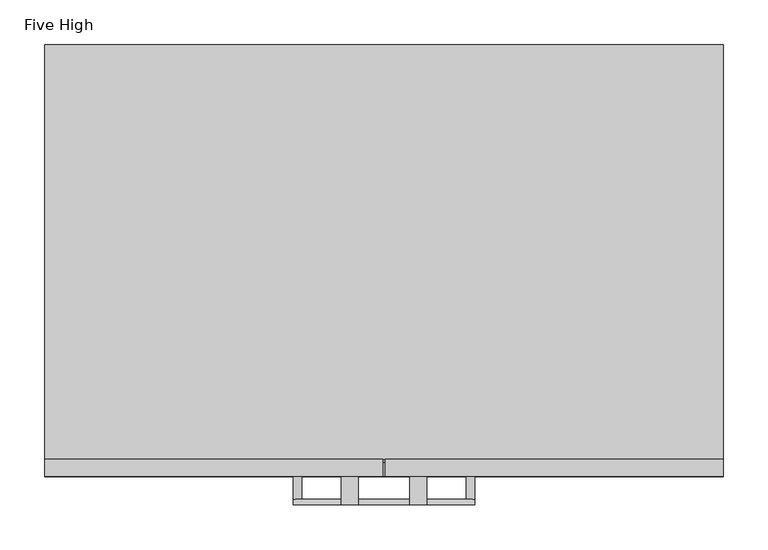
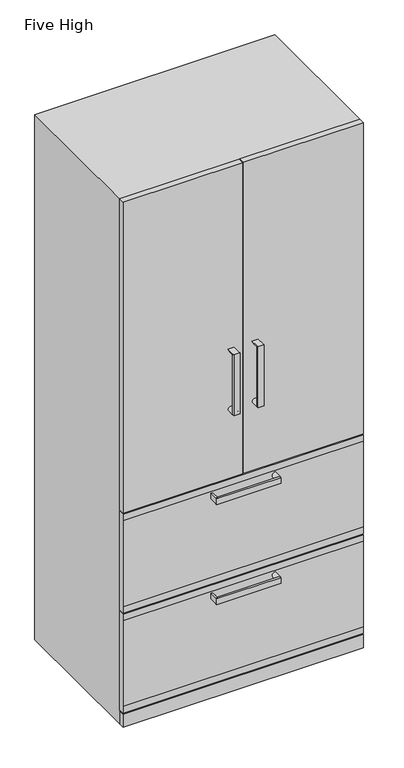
"""IFC4 building model written with IfcOpenShell, lengths in millimetres: furniture geometry, Haworth_Masters_Combo_Lateral FIX : Five High."""

import ifcopenshell
import ifcopenshell.guid

model = None  # the IFC model being written
_history = None  # IfcOwnerHistory: only IFC2X3 demands one
_inside = {}  # id of a spatial element -> (the spatial element, [elements in it])
_under = {}  # id of a project, library or spatial element -> (it, [spatial elements below it])
_declared = {}  # id of a project -> (the project, [libraries it declares])
_typed = {}  # id of a type object -> (the type object, [elements of that type])
_made_of = {}  # id of a material, layer set ... -> (it, [elements and type objects made of it])


def new_model(schema):
    """Start an empty IFC model of exactly this schema.

    Asked for "IFC4X3", IfcOpenShell would pick the latest addendum, in which some entities
    have other attributes; the version numbers below select the first issue.
    IFC2X3 requires an IfcOwnerHistory on every rooted entity: one is made here for all.
    """
    global model, _history
    if schema == "IFC4X3":
        model = ifcopenshell.file(schema_version=(4, 3, 0, 0))
    else:
        model = ifcopenshell.file(schema=schema)
    _inside.clear()
    _under.clear()
    _declared.clear()
    _typed.clear()
    _made_of.clear()
    _history = None
    if model.schema == "IFC2X3":
        org = make("IfcOrganization", Name="unknown")
        user = make(
            "IfcPersonAndOrganization",
            ThePerson=make("IfcPerson", FamilyName="unknown"),
            TheOrganization=org,
        )
        app = make(
            "IfcApplication",
            ApplicationDeveloper=org,
            Version="unknown",
            ApplicationFullName="unknown",
            ApplicationIdentifier="unknown",
        )
        _history = make(
            "IfcOwnerHistory",
            OwningUser=user,
            OwningApplication=app,
            ChangeAction="ADDED",
            CreationDate=0,
        )
    return model


def make(cls, **values):
    """One entity of the class cls with the attributes given. An attribute that is None is left unset."""
    return model.create_entity(
        cls, **{name: value for name, value in values.items() if value is not None}
    )


def rooted(cls, **values):
    """An entity with a GlobalId (a new one), such as an element, a storey or a relation."""
    return make(cls, GlobalId=ifcopenshell.guid.new(), OwnerHistory=_history, **values)


def si_unit(unit_type, name, prefix=None):
    """IfcSIUnit, for example si_unit("LENGTHUNIT", "METRE", prefix="MILLI")."""
    return make("IfcSIUnit", UnitType=unit_type, Prefix=prefix, Name=name)


def assignment(units):
    """IfcUnitAssignment: the units of a project."""
    return None if units is None else make("IfcUnitAssignment", Units=units)


def point(xyz):
    """IfcCartesianPoint."""
    return None if xyz is None else make("IfcCartesianPoint", Coordinates=xyz)


def direction(xyz):
    """IfcDirection."""
    return None if xyz is None else make("IfcDirection", DirectionRatios=xyz)


def frame(location, z_axis=None, x_axis=None):
    """IfcAxis2Placement3D, a coordinate frame: its origin and axes. An axis left out is left unset."""
    return make(
        "IfcAxis2Placement3D",
        Location=point(location),
        Axis=direction(z_axis),
        RefDirection=direction(x_axis),
    )


def origin():
    """The frame at (0, 0, 0) with its axes left unset."""
    return frame((0.0, 0.0, 0.0))


def origin_with_axes():
    """The frame at (0, 0, 0) with the z axis (0, 0, 1) and the x axis (1, 0, 0) written out."""
    return frame((0.0, 0.0, 0.0), z_axis=(0.0, 0.0, 1.0), x_axis=(1.0, 0.0, 0.0))


def place(relative_to, where):
    """IfcLocalPlacement: puts the frame where relative to a parent placement (None: the world)."""
    return make(
        "IfcLocalPlacement", PlacementRelTo=relative_to, RelativePlacement=where
    )


def context(
    kind, dimensions, precision=None, world=None, true_north=None, identifier=None
):
    """IfcGeometricRepresentationContext, for example the 3D "Model" context."""
    return make(
        "IfcGeometricRepresentationContext",
        ContextIdentifier=identifier,
        ContextType=kind,
        CoordinateSpaceDimension=dimensions,
        Precision=precision,
        WorldCoordinateSystem=world,
        TrueNorth=true_north,
    )


def project(units=None, contexts=None):
    """IfcProject with its units and contexts."""
    return rooted(
        "IfcProject",
        Name="project",
        RepresentationContexts=contexts,
        UnitsInContext=assignment(units),
    )


def spatial(cls, under=None, at=None, **own):
    """A site, building, storey or space (cls), placed at a placement, below another one or the project."""
    s = rooted(cls, ObjectPlacement=at, **own)
    if under is not None:
        _under.setdefault(under.id(), (under, []))[1].append(s)
    return s


def polyline(points):
    """IfcPolyline through the points."""
    return make("IfcPolyline", Points=[point(p) for p in points])


def circle_curve(where, radius):
    """IfcCircle in the frame where."""
    return make("IfcCircle", Position=where, Radius=radius)


def outline(outer, holes=None, kind="AREA"):
    """IfcArbitraryClosedProfileDef: a profile drawn as a closed curve; with holes, ...WithVoids."""
    if holes is None:
        return make("IfcArbitraryClosedProfileDef", ProfileType=kind, OuterCurve=outer)
    return make(
        "IfcArbitraryProfileDefWithVoids",
        ProfileType=kind,
        OuterCurve=outer,
        InnerCurves=holes,
    )


def extrude(swept, where, along, depth):
    """IfcExtrudedAreaSolid: the profile swept, set in the frame where, extruded along a direction by depth."""
    return make(
        "IfcExtrudedAreaSolid",
        SweptArea=swept,
        Position=where,
        ExtrudedDirection=direction(along),
        Depth=depth,
    )


def faces_of(points, faces, orient=None, outer=None):
    """IfcFace entities. A face is a list of loops; a loop is a list of indices into points, from 0.

    orient and outer hold one flag for each loop. By default every Orientation is true, the
    first loop of a face is its IfcFaceOuterBound and the others are IfcFaceBound.
    """
    made = []
    for i, loops in enumerate(faces):
        bounds = []
        for j, loop in enumerate(loops):
            is_outer = j == 0 if outer is None else outer[i][j]
            bounds.append(
                make(
                    "IfcFaceOuterBound" if is_outer else "IfcFaceBound",
                    Bound=make("IfcPolyLoop", Polygon=[points[k] for k in loop]),
                    Orientation=True if orient is None else orient[i][j],
                )
            )
        made.append(make("IfcFace", Bounds=bounds))
    return made


def faceted_brep(points, faces, orient=None, outer=None, voids=None):
    """IfcFacetedBrep: a solid bounded by flat faces; with voids (closed shells), ...WithVoids."""
    shared = [point(p) for p in points]
    hull = make("IfcClosedShell", CfsFaces=faces_of(shared, faces, orient, outer))
    if voids is None:
        return make("IfcFacetedBrep", Outer=hull)
    return make(
        "IfcFacetedBrepWithVoids",
        Outer=hull,
        Voids=[
            make(cls, CfsFaces=faces_of(shared, fs, o, b)) for cls, fs, o, b in voids
        ],
    )


def shape(context_of_items, identifier, shape_type, items):
    """IfcShapeRepresentation: the items that make up one representation, for example the "Body"."""
    return make(
        "IfcShapeRepresentation",
        ContextOfItems=context_of_items,
        RepresentationIdentifier=identifier,
        RepresentationType=shape_type,
        Items=items,
    )


def source(mapping_origin, context_of_items, identifier, shape_type, items):
    """IfcRepresentationMap: a shape defined once, which mapped items show again and again."""
    return make(
        "IfcRepresentationMap",
        MappingOrigin=mapping_origin,
        MappedRepresentation=shape(context_of_items, identifier, shape_type, items),
    )


def transform(
    local_origin,
    x_axis=None,
    y_axis=None,
    z_axis=None,
    scale=None,
    scale2=None,
    scale3=None,
    uniform=True,
):
    """IfcCartesianTransformationOperator3D, or its non-uniform kind. x_axis, y_axis, z_axis: its Axis1, 2, 3."""
    if uniform:
        return make(
            "IfcCartesianTransformationOperator3D",
            Axis1=direction(x_axis),
            Axis2=direction(y_axis),
            LocalOrigin=point(local_origin),
            Scale=scale,
            Axis3=direction(z_axis),
        )
    return make(
        "IfcCartesianTransformationOperator3DnonUniform",
        Axis1=direction(x_axis),
        Axis2=direction(y_axis),
        LocalOrigin=point(local_origin),
        Scale=scale,
        Axis3=direction(z_axis),
        Scale2=scale2,
        Scale3=scale3,
    )


def mapped(mapping_source, mapping_target):
    """IfcMappedItem: shows the shape of a source again, moved by a transform."""
    return make(
        "IfcMappedItem", MappingSource=mapping_source, MappingTarget=mapping_target
    )


def made_of(thing, what):
    """Note that an element or type object is made of a material, layer set ...; save() writes the relation."""
    if what is not None:
        _made_of.setdefault(what.id(), (what, []))[1].append(thing)
    return thing


def element(
    cls,
    number,
    at=None,
    inside=None,
    cuts=None,
    type_object=None,
    material=None,
    context=None,
    identifier="Body",
    shape_type=None,
    held_by="IfcProductDefinitionShape",
    body=None,
    shapes=None,
    **own,
):
    """One element of the class cls, such as IfcWall. Its Tag is "e" and its number.

    at: its placement. inside: the storey or other place that contains it. cuts: it is an
    opening in that element (IfcRelVoidsElement). A single representation is given by context,
    identifier, shape_type and body (its items); several are given by shapes. held_by: the class
    of the entity that holds the representations. save() writes the other relations.
    """
    e = rooted(cls, Tag="e%d" % number, ObjectPlacement=at, **own)
    if body is not None:
        shapes = [shape(context, identifier, shape_type, body)]
    if shapes is not None:
        e.Representation = make(held_by, Representations=shapes)
    if inside is not None:
        _inside.setdefault(inside.id(), (inside, []))[1].append(e)
    if cuts is not None:
        rooted(
            "IfcRelVoidsElement", RelatingBuildingElement=cuts, RelatedOpeningElement=e
        )
    if type_object is not None:
        _typed.setdefault(type_object.id(), (type_object, []))[1].append(e)
    return made_of(e, material)


def aggregate(whole, parts):
    """IfcRelAggregates: a whole, such as a stair, and the parts it consists of."""
    return rooted("IfcRelAggregates", RelatingObject=whole, RelatedObjects=parts)


def save(model, path):
    """Write the relations noted so far, then the file.

    IfcRelAggregates (storeys below a building ...), IfcRelContainedInSpatialStructure (elements
    in a storey), IfcRelDefinesByType, IfcRelAssociatesMaterial and IfcRelDeclares: one each for
    every whole, place, type object, material and project.
    """
    for whole, parts in _under.values():
        aggregate(whole, parts)
    for where, things in _inside.values():
        rooted(
            "IfcRelContainedInSpatialStructure",
            RelatedElements=things,
            RelatingStructure=where,
        )
    for kind, things in _typed.values():
        rooted("IfcRelDefinesByType", RelatedObjects=things, RelatingType=kind)
    for what, things in _made_of.values():
        rooted("IfcRelAssociatesMaterial", RelatedObjects=things, RelatingMaterial=what)
    for by, libraries in _declared.values():
        rooted("IfcRelDeclares", RelatingContext=by, RelatedDefinitions=libraries)
    model.write(path)


def plane_surface(at):
    """IfcPlane: the flat surface through the origin of the frame at, square to its z axis."""
    return make("IfcPlane", Position=at)


def cylinder_surface(at, radius):
    """IfcCylindricalSurface: all points at the distance radius from the z axis of the frame at."""
    return make("IfcCylindricalSurface", Position=at, Radius=radius)


def advanced_brep(points, edges, surfaces, faces):
    """IfcAdvancedBrep: a solid bounded by faces that lie on surfaces and meet in shared edges.

    An edge is (start, end): straight between two places in points (the first is 0);
    or (start, end, curve); or (start, end, curve, False) where it runs against its curve.
    A face is (place in surfaces, loops), or (place, loops, False) where it looks against
    its surface's normal. A loop lists edges by number (the first is 1), with a minus sign
    where the edge is run from its end to its start. The first loop is the outer one.
    """
    corners = [point(p) for p in points]
    vertices = [make("IfcVertexPoint", VertexGeometry=c) for c in corners]
    made = []
    for start, end, *more in edges:
        made.append(
            make(
                "IfcEdgeCurve",
                EdgeStart=vertices[start],
                EdgeEnd=vertices[end],
                EdgeGeometry=more[0] if more else make("IfcPolyline", Points=[corners[start], corners[end]]),
                SameSense=more[1] if len(more) > 1 else True,
            )
        )
    hull = []
    for where, loops, *sense in faces:
        bounds = []
        for j, loop in enumerate(loops):
            ring = [make("IfcOrientedEdge", EdgeElement=made[abs(k) - 1], Orientation=k > 0) for k in loop]
            bounds.append(
                make(
                    "IfcFaceOuterBound" if j == 0 else "IfcFaceBound",
                    Bound=make("IfcEdgeLoop", EdgeList=ring),
                    Orientation=True,
                )
            )
        hull.append(make("IfcAdvancedFace", Bounds=bounds, FaceSurface=surfaces[where], SameSense=sense[0] if sense else True))
    return make("IfcAdvancedBrep", Outer=make("IfcClosedShell", CfsFaces=hull))


def five_high_7c8187b1(model_context):
    return source(origin(), model_context, "Body", "SolidModel", [
        advanced_brep(
        [(31.75, -482.6, 1146.175), (50.8, -482.6, 1146.175), (50.8, -508.0000121, 1146.175), (31.75, -508.0000121, 1146.175), (31.75, -482.6, 942.975), (50.8, -482.6, 942.975), (31.75, -508.0000121, 942.975), (50.8, -508.0000121, 942.975), (50.8, -514.3499879, 942.975), (50.8, -514.3499879, 1146.175), (31.75, -514.3499879, 1146.175), (31.75, -514.3499879, 942.975)],
        [
            (0, 1),
            (1, 0, circle_curve(frame((41.275, -482.6, 1146.175), z_axis=(0.0, 1.0, 0.0), x_axis=(0.0, 0.0, -1.0)), 9.525)),
            (1, 2),
            (2, 3, circle_curve(frame((41.275, -508.0000121, 1146.175), z_axis=(0.0, 1.0, 0.0), x_axis=(0.0, 0.0, -1.0)), 9.525)),
            (3, 0),
            (4, 5, circle_curve(frame((41.275, -482.6, 942.975), z_axis=(0.0, 1.0, 0.0), x_axis=(0.0, 0.0, 1.0)), 9.525)),
            (5, 4),
            (4, 6),
            (6, 7, circle_curve(frame((41.275, -508.0000121, 942.975), z_axis=(0.0, 1.0, 0.0), x_axis=(0.0, 0.0, 1.0)), 9.525)),
            (7, 5),
            (8, 9),
            (9, 10),
            (10, 11),
            (11, 8),
            (6, 3),
            (2, 7),
            (8, 7),
            (2, 9),
            (3, 10),
            (6, 11),
        ],
        [
            plane_surface(frame((41.275, -482.6, 1136.65), z_axis=(0.0, 1.0, 0.0), x_axis=(-1.0, 0.0, 0.0))),
            cylinder_surface(frame((41.275, -482.6, 1146.175), z_axis=(0.0, -1.0, 0.0), x_axis=(0.0, 0.0, -1.0)), 9.525),
            plane_surface(frame((50.8, -482.6, 942.975), z_axis=(0.0, 1.0, 0.0), x_axis=(-1.0, 0.0, 0.0))),
            cylinder_surface(frame((41.275, -482.6, 942.975), z_axis=(0.0, -1.0, 0.0), x_axis=(0.0, 0.0, 1.0)), 9.525),
            plane_surface(frame((50.8, -514.3499879, 1146.175), z_axis=(0.0, -1.0, 0.0), x_axis=(0.0, 0.0, 1.0))),
            plane_surface(frame((50.8, -508.0000121, 1146.175), z_axis=(0.0, 1.0, 0.0), x_axis=(0.0, 0.0, -1.0))),
            plane_surface(frame((50.8, -514.3499879, 942.975), z_axis=(1.0, 0.0, 0.0), x_axis=(0.0, 1.0, 0.0))),
            plane_surface(frame((50.8, -514.3499879, 1146.175), z_axis=(0.0, 0.0, 1.0), x_axis=(0.0, 1.0, 0.0))),
            plane_surface(frame((31.75, -514.3499879, 1146.175), z_axis=(-1.0, 0.0, 0.0), x_axis=(0.0, 1.0, 0.0))),
            plane_surface(frame((31.75, -514.3499879, 942.975), z_axis=(0.0, 0.0, -1.0), x_axis=(0.0, 1.0, 0.0))),
        ],
        [
            (0, [[1, 2]]),
            (1, [[-2, 3, 4, 5]]),
            (2, [[6, 7]]),
            (3, [[-6, 8, 9, 10]]),
            (4, [[11, 12, 13, 14]]),
            (5, [[15, -4, 16, -9]]),
            (6, [[-11, 17, -16, 18]]),
            (7, [[-12, -18, -3, -1, -5, 19]]),
            (8, [[-13, -19, -15, 20]]),
            (9, [[-14, -20, -8, -7, -10, -17]]),
        ],
    ),
        extrude(outline(polyline([(-300.0375, -482.6), (-300.0375, -463.55), (77.7875, -463.55), (77.7875, -482.6), (-300.0375, -482.6)])), frame((0.0, 0.0, 714.375), z_axis=(0.0, 0.0, 1.0), x_axis=(1.0, 0.0, 0.0)), (0.0, 0.0, 1.0), 1038.225),
        advanced_brep(
        [(-22.225, -482.6, 665.1625), (-22.225, -482.6, 684.2125), (-22.225, -508.0000121, 684.2125), (-22.225, -508.0000121, 665.1625), (-22.225, -514.3499879, 665.1625), (-22.225, -514.3499879, 684.2125), (180.975, -482.6, 665.1960294), (180.975, -482.6, 684.1789706), (180.975, -508.0000121, 665.1960294), (180.975, -508.0000121, 684.1789706), (180.975, -514.3499879, 684.2125), (180.975, -514.3499879, 665.1625)],
        [
            (0, 1),
            (1, 0, circle_curve(frame((-22.225, -482.6, 674.6875), z_axis=(0.0, 1.0, 0.0), x_axis=(1.0, 0.0, 0.0)), 9.525)),
            (1, 2),
            (2, 3, circle_curve(frame((-22.225, -508.0000121, 674.6875), z_axis=(0.0, 1.0, 0.0), x_axis=(1.0, 0.0, 0.0)), 9.525)),
            (3, 0),
            (3, 4),
            (4, 5),
            (5, 2),
            (6, 7, circle_curve(frame((180.975, -482.6, 674.6875), z_axis=(0.0, 1.0, 0.0), x_axis=(-1.0, 0.0, 0.0)), 9.4914706)),
            (7, 6),
            (6, 8),
            (8, 9, circle_curve(frame((180.975, -508.0000121, 674.6875), z_axis=(0.0, 1.0, 0.0), x_axis=(-1.0, 0.0, 0.0)), 9.4914706)),
            (9, 7),
            (9, 10),
            (10, 11),
            (11, 8),
            (10, 5),
            (4, 11),
            (8, 3),
            (2, 9),
        ],
        [
            plane_surface(frame((-12.7, -482.6, 674.6875), z_axis=(0.0, 1.0, 0.0), x_axis=(0.0, 0.0, -1.0))),
            cylinder_surface(frame((-22.225, -482.6, 674.6875), z_axis=(0.0, -1.0, 0.0), x_axis=(1.0, 0.0, 0.0)), 9.525),
            plane_surface(frame((-22.225, -508.0000121, 684.2125), z_axis=(-1.0, 0.0, 0.0), x_axis=(0.0, 1.0, 0.0))),
            plane_surface(frame((180.975, -482.6, 684.1789706), z_axis=(0.0, 1.0, 0.0), x_axis=(0.0, 0.0, -1.0))),
            cylinder_surface(frame((180.975, -482.6, 674.6875), z_axis=(0.0, -1.0, 0.0), x_axis=(-1.0, 0.0, 0.0)), 9.4914706),
            plane_surface(frame((180.975, -508.0000121, 665.1960294), z_axis=(1.0, 0.0, 0.0), x_axis=(0.0, 1.0, 0.0))),
            plane_surface(frame((-22.225, -514.3499879, 684.2125), z_axis=(0.0, -1.0, 0.0), x_axis=(-1.0, 0.0, 0.0))),
            plane_surface(frame((-22.225, -508.0000121, 684.2125), z_axis=(0.0, 1.0, 0.0), x_axis=(1.0, 0.0, 0.0))),
            plane_surface(frame((-22.225, -514.3499879, 665.1625), z_axis=(0.0, 0.0, -1.0), x_axis=(0.0, 1.0, 0.0))),
            plane_surface(frame((180.975, -514.3499879, 684.2125), z_axis=(0.0, 0.0, 1.0), x_axis=(0.0, 1.0, 0.0))),
        ],
        [
            (0, [[1, 2]]),
            (1, [[-2, 3, 4, 5]]),
            (2, [[-1, -5, 6, 7, 8, -3]]),
            (3, [[9, 10]]),
            (4, [[-9, 11, 12, 13]]),
            (5, [[-10, -13, 14, 15, 16, -11]]),
            (6, [[17, -7, 18, -15]]),
            (7, [[19, -4, 20, -12]]),
            (8, [[-18, -6, -19, -16]]),
            (9, [[-17, -14, -20, -8]]),
        ],
    ),
        extrude(outline(polyline([(-466.725, 711.2), (-463.55, 711.2), (-463.55, 381.0), (-466.725, 381.0), (-482.6, 381.0), (-482.6, 403.225), (-482.6, 688.975), (-482.6, 711.2), (-466.725, 711.2)])), frame((-300.0375, 0.0, 0.0), z_axis=(1.0, 0.0, 0.0), x_axis=(0.0, 1.0, 0.0)), (0.0, 0.0, 1.0), 758.825),
        advanced_brep(
        [(-22.225, -482.6, 331.7875), (-22.225, -482.6, 350.8375), (-22.225, -508.0000121, 350.8375), (-22.225, -508.0000121, 331.7875), (-22.225, -514.3499879, 331.7875), (-22.225, -514.3499879, 350.8375), (180.975, -482.6, 331.8210294), (180.975, -482.6, 350.8039706), (180.975, -508.0000121, 331.8210294), (180.975, -508.0000121, 350.8039706), (180.975, -514.3499879, 350.8375), (180.975, -514.3499879, 331.7875)],
        [
            (0, 1),
            (1, 0, circle_curve(frame((-22.225, -482.6, 341.3125), z_axis=(0.0, 1.0, 0.0), x_axis=(1.0, 0.0, 0.0)), 9.525)),
            (1, 2),
            (2, 3, circle_curve(frame((-22.225, -508.0000121, 341.3125), z_axis=(0.0, 1.0, 0.0), x_axis=(1.0, 0.0, 0.0)), 9.525)),
            (3, 0),
            (3, 4),
            (4, 5),
            (5, 2),
            (6, 7, circle_curve(frame((180.975, -482.6, 341.3125), z_axis=(0.0, 1.0, 0.0), x_axis=(-1.0, 0.0, 0.0)), 9.4914706)),
            (7, 6),
            (6, 8),
            (8, 9, circle_curve(frame((180.975, -508.0000121, 341.3125), z_axis=(0.0, 1.0, 0.0), x_axis=(-1.0, 0.0, 0.0)), 9.4914706)),
            (9, 7),
            (9, 10),
            (10, 11),
            (11, 8),
            (10, 5),
            (4, 11),
            (8, 3),
            (2, 9),
        ],
        [
            plane_surface(frame((-12.7, -482.6, 341.3125), z_axis=(0.0, 1.0, 0.0), x_axis=(0.0, 0.0, -1.0))),
            cylinder_surface(frame((-22.225, -482.6, 341.3125), z_axis=(0.0, -1.0, 0.0), x_axis=(1.0, 0.0, 0.0)), 9.525),
            plane_surface(frame((-22.225, -508.0000121, 350.8375), z_axis=(-1.0, 0.0, 0.0), x_axis=(0.0, 1.0, 0.0))),
            plane_surface(frame((180.975, -482.6, 350.8039706), z_axis=(0.0, 1.0, 0.0), x_axis=(0.0, 0.0, -1.0))),
            cylinder_surface(frame((180.975, -482.6, 341.3125), z_axis=(0.0, -1.0, 0.0), x_axis=(-1.0, 0.0, 0.0)), 9.4914706),
            plane_surface(frame((180.975, -508.0000121, 331.8210294), z_axis=(1.0, 0.0, 0.0), x_axis=(0.0, 1.0, 0.0))),
            plane_surface(frame((-22.225, -514.3499879, 350.8375), z_axis=(0.0, -1.0, 0.0), x_axis=(-1.0, 0.0, 0.0))),
            plane_surface(frame((-22.225, -508.0000121, 350.8375), z_axis=(0.0, 1.0, 0.0), x_axis=(1.0, 0.0, 0.0))),
            plane_surface(frame((-22.225, -514.3499879, 331.7875), z_axis=(0.0, 0.0, -1.0), x_axis=(0.0, 1.0, 0.0))),
            plane_surface(frame((180.975, -514.3499879, 350.8375), z_axis=(0.0, 0.0, 1.0), x_axis=(0.0, 1.0, 0.0))),
        ],
        [
            (0, [[1, 2]]),
            (1, [[-2, 3, 4, 5]]),
            (2, [[-1, -5, 6, 7, 8, -3]]),
            (3, [[9, 10]]),
            (4, [[-9, 11, 12, 13]]),
            (5, [[-10, -13, 14, 15, 16, -11]]),
            (6, [[17, -7, 18, -15]]),
            (7, [[19, -4, 20, -12]]),
            (8, [[-18, -6, -19, -16]]),
            (9, [[-17, -14, -20, -8]]),
        ],
    ),
        extrude(outline(polyline([(-466.725, 377.825), (-463.55, 377.825), (-463.55, 47.625), (-466.725, 47.625), (-482.6, 47.625), (-482.6, 69.85), (-482.6, 355.6), (-482.6, 377.825), (-466.725, 377.825)])), frame((-300.0375, 0.0, 0.0), z_axis=(1.0, 0.0, 0.0), x_axis=(0.0, 1.0, 0.0)), (0.0, 0.0, 1.0), 758.825),
        advanced_brep(
        [(127.0, -482.6, 1146.175), (107.95, -482.6, 1146.175), (127.0, -508.0000121, 1146.175), (107.95, -508.0000121, 1146.175), (127.0, -482.6, 942.975), (107.95, -482.6, 942.975), (107.95, -508.0000121, 942.975), (127.0, -508.0000121, 942.975), (107.95, -514.3499879, 942.975), (127.0, -514.3499879, 942.975), (127.0, -514.3499879, 1146.175), (107.95, -514.3499879, 1146.175)],
        [
            (0, 1, circle_curve(frame((117.475, -482.6, 1146.175), z_axis=(0.0, 1.0, 0.0), x_axis=(0.0, 0.0, -1.0)), 9.525)),
            (1, 0),
            (0, 2),
            (2, 3, circle_curve(frame((117.475, -508.0000121, 1146.175), z_axis=(0.0, 1.0, 0.0), x_axis=(0.0, 0.0, -1.0)), 9.525)),
            (3, 1),
            (4, 5),
            (5, 4, circle_curve(frame((117.475, -482.6, 942.975), z_axis=(0.0, 1.0, 0.0), x_axis=(0.0, 0.0, 1.0)), 9.525)),
            (5, 6),
            (6, 7, circle_curve(frame((117.475, -508.0000121, 942.975), z_axis=(0.0, 1.0, 0.0), x_axis=(0.0, 0.0, 1.0)), 9.525)),
            (7, 4),
            (8, 9),
            (9, 10),
            (10, 11),
            (11, 8),
            (6, 3),
            (2, 7),
            (11, 3),
            (6, 8),
            (10, 2),
            (9, 7),
        ],
        [
            plane_surface(frame((117.475, -482.6, 1136.65), z_axis=(0.0, 1.0, 0.0), x_axis=(1.0, 0.0, 0.0))),
            cylinder_surface(frame((117.475, -482.6, 1146.175), z_axis=(0.0, -1.0, 0.0), x_axis=(0.0, 0.0, -1.0)), 9.525),
            plane_surface(frame((107.95, -482.6, 942.975), z_axis=(0.0, 1.0, 0.0), x_axis=(1.0, 0.0, 0.0))),
            cylinder_surface(frame((117.475, -482.6, 942.975), z_axis=(0.0, -1.0, 0.0), x_axis=(0.0, 0.0, 1.0)), 9.525),
            plane_surface(frame((107.95, -514.3499879, 1146.175), z_axis=(0.0, -1.0, 0.0), x_axis=(0.0, 0.0, 1.0))),
            plane_surface(frame((107.95, -508.0000121, 1146.175), z_axis=(0.0, 1.0, 0.0), x_axis=(0.0, 0.0, -1.0))),
            plane_surface(frame((107.95, -514.3499879, 942.975), z_axis=(-1.0, 0.0, 0.0), x_axis=(0.0, 1.0, 0.0))),
            plane_surface(frame((107.95, -514.3499879, 1146.175), z_axis=(0.0, 0.0, 1.0), x_axis=(0.0, 1.0, 0.0))),
            plane_surface(frame((127.0, -514.3499879, 1146.175), z_axis=(1.0, 0.0, 0.0), x_axis=(0.0, 1.0, 0.0))),
            plane_surface(frame((127.0, -514.3499879, 942.975), z_axis=(0.0, 0.0, -1.0), x_axis=(0.0, 1.0, 0.0))),
        ],
        [
            (0, [[1, 2]]),
            (1, [[3, 4, 5, -1]]),
            (2, [[6, 7]]),
            (3, [[8, 9, 10, -7]]),
            (4, [[11, 12, 13, 14]]),
            (5, [[-9, 15, -4, 16]]),
            (6, [[17, -15, 18, -14]]),
            (7, [[19, -3, -2, -5, -17, -13]]),
            (8, [[20, -16, -19, -12]]),
            (9, [[-18, -8, -6, -10, -20, -11]]),
        ],
    ),
        extrude(outline(polyline([(458.7875, -482.6), (80.9625, -482.6), (80.9625, -463.55), (458.7875, -463.55), (458.7875, -482.6)])), frame((0.0, 0.0, 714.375), z_axis=(0.0, 0.0, 1.0), x_axis=(1.0, 0.0, 0.0)), (0.0, 0.0, 1.0), 1038.225),
        faceted_brep([(458.7875, 0.0, 1752.6), (-300.0375, 0.0, 1752.6), (-300.0375, -463.55, 1752.6), (458.7875, -463.55, 1752.6), (458.7875, 0.0, 0.0), (458.7875, -463.55, 0.0), (439.7375, -463.55, 0.0), (439.7375, -19.05, 0.0), (-280.9875, -19.05, 0.0), (-280.9875, -463.55, 0.0), (-300.0375, -463.55, 0.0), (-300.0375, 0.0, 0.0), (-280.9875, -463.55, 1733.55), (439.7375, -463.55, 1733.55), (-280.9875, -19.05, 1733.55), (439.7375, -19.05, 1733.55)], [[[0, 1, 2, 3]], [[4, 5, 6, 7, 8, 9, 10, 11]], [[1, 0, 4, 11]], [[2, 1, 11, 10]], [[0, 3, 5, 4]], [[3, 2, 10, 9, 12, 13, 6, 5]], [[9, 8, 14, 12]], [[8, 7, 15, 14]], [[7, 6, 13, 15]], [[13, 12, 14, 15]]]),
        extrude(outline(polyline([(458.7875, -463.55), (458.7875, -482.6), (-300.0375, -482.6), (-300.0375, -463.55), (458.7875, -463.55)])), origin_with_axes(), (0.0, 0.0, 1.0), 44.45),
    ])


if __name__ == "__main__":
    model = new_model("IFC4")
    model_context = context("Model", 3, world=origin())
    ifc_project = project(units=[si_unit("LENGTHUNIT", "METRE", prefix="MILLI")], contexts=[model_context])
    site = spatial("IfcSite", under=ifc_project)
    building = spatial("IfcBuilding", under=site)
    placement = place(None, origin())
    five_high_shape = five_high_7c8187b1(model_context)
    element("IfcFurniture", 1, ObjectType="Haworth_Masters_Combo_Lateral FIX : Five High", at=placement, inside=building, context=model_context, shape_type="MappedRepresentation", body=[
        mapped(five_high_shape, transform((0.0, 0.0, 0.0), x_axis=(1.0, 0.0, 0.0), y_axis=(0.0, 1.0, 0.0), z_axis=(0.0, 0.0, 1.0))),
    ])
    save(model, "model.ifc")
